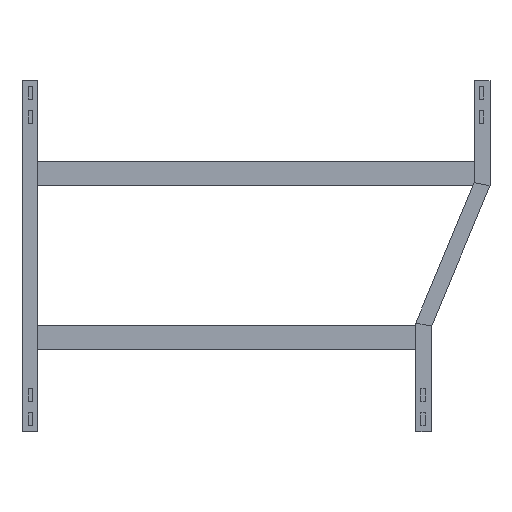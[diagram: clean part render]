
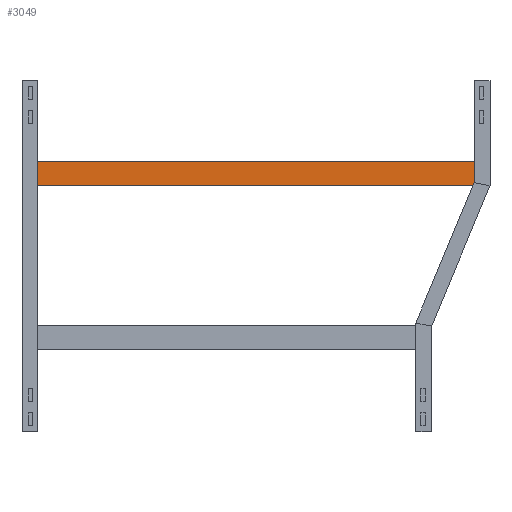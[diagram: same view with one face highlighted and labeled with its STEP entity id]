
A CAD part, front view. The second image highlights one B-rep face of the part: STEP entity #3049.
In plain terms, the highlighted planar face has unit normal (0, -1, 0).
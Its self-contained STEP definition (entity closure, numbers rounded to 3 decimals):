
#126 = DIRECTION ( 'NONE',  ( 0., 0., 1. ) ) ;
#129 = VECTOR ( 'NONE', #1579, 1000. ) ;
#271 = DIRECTION ( 'NONE',  ( -1., 0., 0. ) ) ;
#479 = VERTEX_POINT ( 'NONE', #1487 ) ;
#513 = ORIENTED_EDGE ( 'NONE', *, *, #1145, .F. ) ;
#533 = EDGE_CURVE ( 'NONE', #1832, #479, #1091, .T. ) ;
#678 = PLANE ( 'NONE',  #1836 ) ;
#958 = CARTESIAN_POINT ( 'NONE',  ( 398., 0., -20.25 ) ) ;
#975 = ORIENTED_EDGE ( 'NONE', *, *, #3133, .T. ) ;
#1091 = LINE ( 'NONE', #2382, #129 ) ;
#1127 = CARTESIAN_POINT ( 'NONE',  ( 398., 0., -20.25 ) ) ;
#1145 = EDGE_CURVE ( 'NONE', #2251, #2043, #1961, .T. ) ;
#1487 = CARTESIAN_POINT ( 'NONE',  ( -398., 0., -20.25 ) ) ;
#1503 = DIRECTION ( 'NONE',  ( 0., 1., 0. ) ) ;
#1528 = ORIENTED_EDGE ( 'NONE', *, *, #2726, .F. ) ;
#1579 = DIRECTION ( 'NONE',  ( 0., 0., -1. ) ) ;
#1668 = CARTESIAN_POINT ( 'NONE',  ( 398., 0., 20.25 ) ) ;
#1705 = DIRECTION ( 'NONE',  ( 0., 0., -1. ) ) ;
#1832 = VERTEX_POINT ( 'NONE', #3555 ) ;
#1836 = AXIS2_PLACEMENT_3D ( 'NONE', #2892, #1503, #126 ) ;
#1961 = LINE ( 'NONE', #3107, #2927 ) ;
#2043 = VERTEX_POINT ( 'NONE', #958 ) ;
#2118 = VECTOR ( 'NONE', #2438, 1000. ) ;
#2251 = VERTEX_POINT ( 'NONE', #1668 ) ;
#2382 = CARTESIAN_POINT ( 'NONE',  ( -398., 0., 20.25 ) ) ;
#2438 = DIRECTION ( 'NONE',  ( -1., 0., 0. ) ) ;
#2464 = CARTESIAN_POINT ( 'NONE',  ( 398., 0., 20.25 ) ) ;
#2505 = EDGE_LOOP ( 'NONE', ( #2882, #1528, #513, #975 ) ) ;
#2726 = EDGE_CURVE ( 'NONE', #2043, #479, #3572, .T. ) ;
#2764 = VECTOR ( 'NONE', #271, 1000. ) ;
#2882 = ORIENTED_EDGE ( 'NONE', *, *, #533, .T. ) ;
#2892 = CARTESIAN_POINT ( 'NONE',  ( 398., 0., 20.25 ) ) ;
#2927 = VECTOR ( 'NONE', #1705, 1000. ) ;
#3049 = ADVANCED_FACE ( 'NONE', ( #3166 ), #678, .F. ) ;
#3107 = CARTESIAN_POINT ( 'NONE',  ( 398., 0., 20.25 ) ) ;
#3133 = EDGE_CURVE ( 'NONE', #2251, #1832, #3304, .T. ) ;
#3166 = FACE_OUTER_BOUND ( 'NONE', #2505, .T. ) ;
#3304 = LINE ( 'NONE', #2464, #2118 ) ;
#3555 = CARTESIAN_POINT ( 'NONE',  ( -398., 0., 20.25 ) ) ;
#3572 = LINE ( 'NONE', #1127, #2764 ) ;
